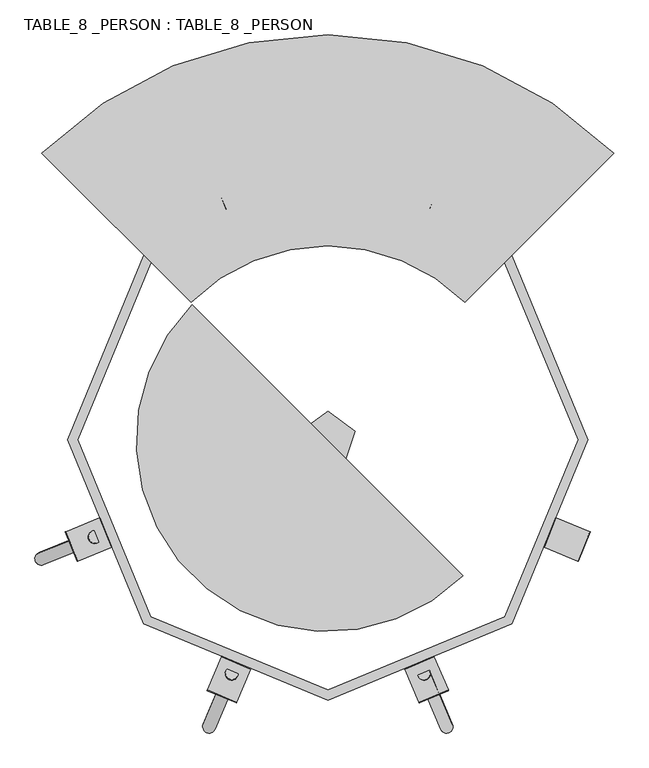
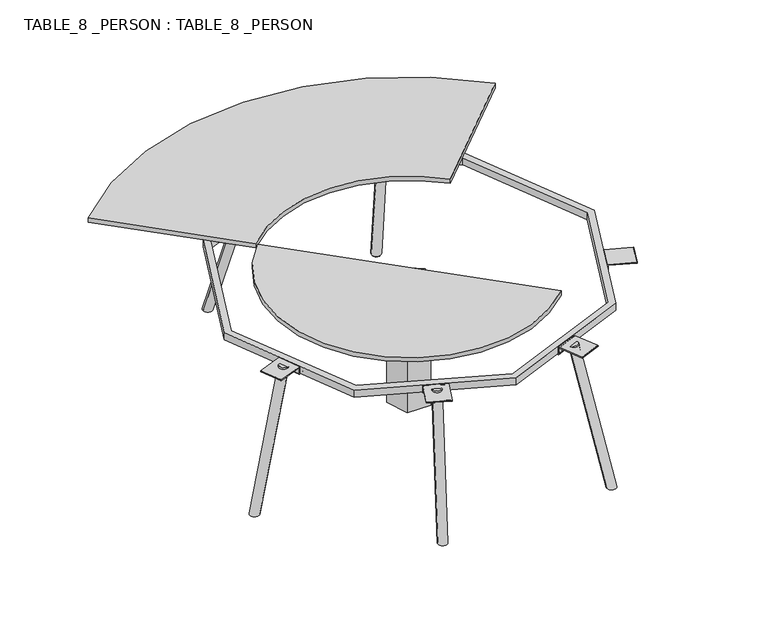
"""IFC4 building model written with IfcOpenShell, lengths in millimetres: furniture geometry, TABLE_8 _PERSON : TABLE_8 _PERSON."""

from ifc_helpers import new_model, si_unit, point, frame, frame_2d, origin, origin_with_axes, origin_2d, place, context, project, spatial, polyline, circle_curve, ellipse_curve, trimmed, segment, composite_curve, outline, extrude, source, transform, mapped, element, save
from ifc_brep_helpers import plane_surface, cylinder_surface, advanced_brep


def table_8_person_table_8_person_554a9362(model_context):
    return source(origin(), model_context, "Body", "SolidModel", [
        extrude(outline(composite_curve([segment(trimmed(circle_curve(frame_2d((0.0, -2.5)), 2.5), [point((-2.5, -2.5))], [point((0.0, 0.0))], False, "CARTESIAN"), True, "CONTINUOUS"), segment(trimmed(circle_curve(frame_2d((0.0, -2.5)), 2.5), [point((0.0, 0.0))], [point((2.5, -2.5))], False, "CARTESIAN"), True, "CONTINUOUS"), segment(polyline([(2.5, -2.5), (2.5, -26.4425328)]), True, "CONTINUOUS"), segment(trimmed(circle_curve(frame_2d((-1.0574671, -26.4425328)), 3.5574671), [point((2.5, -26.4425328))], [point((-1.0574671, -30.0))], False, "CARTESIAN"), True, "CONTINUOUS"), segment(polyline([(-1.0574671, -30.0), (-35.0, -30.0)]), True, "CONTINUOUS"), segment(trimmed(circle_curve(frame_2d((-35.0, -32.5)), 2.5), [point((-35.0, -30.0))], [point((-37.5, -32.5))], True, "CARTESIAN"), True, "CONTINUOUS"), segment(polyline([(-37.5, -32.5), (-37.5, -167.5)]), True, "CONTINUOUS"), segment(trimmed(circle_curve(frame_2d((-40.0, -167.5)), 2.5), [point((-37.5, -167.5))], [point((-40.0, -170.0))], False, "CARTESIAN"), True, "CONTINUOUS"), segment(trimmed(circle_curve(frame_2d((-40.0, -167.5)), 2.5), [point((-40.0, -170.0))], [point((-42.5, -167.5))], False, "CARTESIAN"), True, "CONTINUOUS"), segment(polyline([(-42.5, -167.5), (-42.5, -27.5)]), True, "CONTINUOUS"), segment(trimmed(circle_curve(frame_2d((-40.0, -27.5)), 2.5), [point((-42.5, -27.5))], [point((-40.0, -24.9999999))], False, "CARTESIAN"), True, "CONTINUOUS"), segment(polyline([(-40.0, -24.9999999), (-6.0394106, -24.9999999)]), True, "CONTINUOUS"), segment(trimmed(circle_curve(frame_2d((-6.0394106, -21.4605894)), 3.5394106), [point((-6.0394106, -24.9999999))], [point((-2.5, -21.4605894))], True, "CARTESIAN"), True, "CONTINUOUS"), segment(polyline([(-2.5, -21.4605894), (-2.5, -2.5)]), True, "CONTINUOUS")], self_intersect=False)), frame((811.2342041, -405.2599895, 692.5), z_axis=(0.37460659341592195, 0.9271838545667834, 0.0), x_axis=(0.0, 0.0, -1.0)), (0.0, 0.0, 1.0), 122.728476),
        advanced_brep(
        [(-1126.3712714, -475.6916795, 10.0), (-1132.8256985, -459.7164119, 10.0), (-916.5469057, -355.9639178, 739.0074339), (-885.1124799, -394.5869903, 734.5202141), (-1090.4911757, -477.5653696, 10.0), (-1123.1975872, -439.4562127, 10.0)],
        [
            (0, 1, circle_curve(frame((-1108.7894298, -459.2966417, 3.138398), z_axis=(-0.2710823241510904, -0.10952436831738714, -0.9563047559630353), x_axis=(0.6286885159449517, -0.7724614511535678, -0.08974439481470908)), 25.0)),
            (1, 0),
            (2, 3, circle_curve(frame((-900.8296928, -375.275454, 736.763824), z_axis=(0.2710823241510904, 0.10952436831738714, 0.9563047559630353), x_axis=(0.6286885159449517, -0.7724614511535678, -0.08974439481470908)), 25.0)),
            (3, 2, circle_curve(frame((-900.8296928, -375.275454, 736.763824), z_axis=(0.2710823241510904, 0.10952436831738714, 0.9563047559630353), x_axis=(0.6286885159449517, -0.7724614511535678, -0.08974439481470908)), 25.0)),
            (3, 4),
            (4, 5, ellipse_curve(frame((-1106.8443815, -458.5107911, 10.0), z_axis=(0.0, 0.0, 1.0), x_axis=(-0.9271838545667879, -0.37460659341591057, 0.0)), 26.1422939, 25.0)),
            (5, 2),
            (5, 1, ellipse_curve(frame((-1106.8443815, -458.5107911, 10.0), z_axis=(0.0, 0.0, 1.0), x_axis=(-0.9271838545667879, -0.37460659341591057, 0.0)), 26.1422939, 25.0)),
            (0, 4, ellipse_curve(frame((-1106.8443815, -458.5107911, 10.0), z_axis=(0.0, 0.0, 1.0), x_axis=(-0.9271838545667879, -0.37460659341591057, 0.0)), 26.1422939, 25.0)),
        ],
        [
            plane_surface(frame((-1093.0722169, -478.608178, 0.8947881), z_axis=(-0.2710823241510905, -0.10952436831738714, -0.9563047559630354), x_axis=(-0.7288793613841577, -0.6255459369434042, 0.27825735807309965))),
            plane_surface(frame((-885.1124799, -394.5869903, 734.5202141), z_axis=(0.2710823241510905, 0.10952436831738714, 0.9563047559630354), x_axis=(0.7288793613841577, 0.6255459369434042, -0.27825735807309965))),
            cylinder_surface(frame((-900.8296928, -375.275454, 736.763824), z_axis=(-0.2710823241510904, -0.10952436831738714, -0.9563047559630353), x_axis=(0.6286885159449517, -0.7724614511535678, -0.08974439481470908)), 25.0),
            plane_surface(frame((-1165.4727181, -400.7364862, 10.0), z_axis=(0.0, 0.0, -1.0), x_axis=(0.3746065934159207, -0.927183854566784, 0.0))),
        ],
        [
            (0, [[1, 2]]),
            (1, [[3, 4]]),
            (2, [[-4, 5, 6, 7]]),
            (2, [[-3, -7, 8, -1, 9, -5]]),
            (3, [[-2, -8, -6, -9]]),
        ],
    ),
        extrude(outline(composite_curve([segment(polyline([(-22.5, 0.0), (-3.5394105, 0.0)]), True, "CONTINUOUS"), segment(trimmed(circle_curve(frame_2d((-3.5394105, 3.5394106)), 3.5394106), [point((-3.5394105, 0.0))], [point((0.0, 3.5394106))], True, "CARTESIAN"), True, "CONTINUOUS"), segment(polyline([(0.0, 3.5394106), (0.0, 37.5)]), True, "CONTINUOUS"), segment(trimmed(circle_curve(frame_2d((2.5000001, 37.5)), 2.5), [point((0.0, 37.5))], [point((2.5000001, 40.0))], False, "CARTESIAN"), True, "CONTINUOUS"), segment(polyline([(2.5000001, 40.0), (142.5, 40.0)]), True, "CONTINUOUS"), segment(trimmed(circle_curve(frame_2d((142.5, 37.5)), 2.5), [point((142.5, 40.0))], [point((145.0000001, 37.5))], False, "CARTESIAN"), True, "CONTINUOUS"), segment(trimmed(circle_curve(frame_2d((142.5, 37.5)), 2.5), [point((145.0000001, 37.5))], [point((142.5, 35.0))], False, "CARTESIAN"), True, "CONTINUOUS"), segment(polyline([(142.5, 35.0), (7.5000001, 35.0)]), True, "CONTINUOUS"), segment(trimmed(circle_curve(frame_2d((7.5000001, 32.5)), 2.5), [point((7.5000001, 35.0))], [point((5.0, 32.5))], True, "CARTESIAN"), True, "CONTINUOUS"), segment(polyline([(5.0, 32.5), (5.0, -1.4425329)]), True, "CONTINUOUS"), segment(trimmed(circle_curve(frame_2d((1.4425329, -1.4425329)), 3.5574671), [point((5.0, -1.4425329))], [point((1.4425329, -5.0))], False, "CARTESIAN"), True, "CONTINUOUS"), segment(polyline([(1.4425329, -5.0), (-22.5, -5.0)]), True, "CONTINUOUS"), segment(trimmed(circle_curve(frame_2d((-22.5, -2.5)), 2.5), [point((-22.5, -5.0))], [point((-24.9999999, -2.5))], False, "CARTESIAN"), True, "CONTINUOUS"), segment(trimmed(circle_curve(frame_2d((-22.5, -2.5)), 2.5), [point((-24.9999999, -2.5))], [point((-22.5, 0.0))], False, "CARTESIAN"), True, "CONTINUOUS")], self_intersect=False)), frame((-834.4138004, -414.6251543, 695.0), z_axis=(-0.374606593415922, 0.9271838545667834, 0.0), x_axis=(-0.9271838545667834, -0.374606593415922, 0.0)), (0.0, 0.0, 1.0), 122.728476),
        advanced_brep(
        [(-460.0999518, -1132.8295765, 10.0), (-475.960141, -1126.0973256, 10.0), (-396.3338984, -899.6640778, 739.494078), (-346.7957663, -904.7472187, 735.0068583), (-433.4039938, -1108.7834165, 10.0), (-483.4781625, -1104.9630985, 10.0)],
        [
            (0, 1, circle_curve(frame((-459.2607548, -1108.8042947, 3.138398), z_axis=(-0.11423872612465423, -0.26912957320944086, -0.9563047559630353), x_axis=(0.9907626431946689, -0.1016628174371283, -0.08974439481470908)), 25.0)),
            (1, 0),
            (2, 3, circle_curve(frame((-371.5648324, -902.2056483, 737.2504682), z_axis=(0.11423872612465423, 0.26912957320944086, 0.9563047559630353), x_axis=(0.9907626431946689, -0.1016628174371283, -0.08974439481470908)), 25.0)),
            (3, 2, circle_curve(frame((-371.5648324, -902.2056483, 737.2504682), z_axis=(0.11423872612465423, 0.26912957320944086, 0.9563047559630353), x_axis=(0.9907626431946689, -0.1016628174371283, -0.08974439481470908)), 25.0)),
            (3, 4),
            (4, 5, ellipse_curve(frame((-458.4410782, -1106.8732575, 10.0), z_axis=(0.0, 0.0, 1.0), x_axis=(-0.39073112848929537, -0.9205048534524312, 0.0)), 26.1422939, 25.0)),
            (5, 2),
            (5, 1, ellipse_curve(frame((-458.4410782, -1106.8732575, 10.0), z_axis=(0.0, 0.0, 1.0), x_axis=(-0.39073112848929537, -0.9205048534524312, 0.0)), 26.1422939, 25.0)),
            (0, 4, ellipse_curve(frame((-458.4410782, -1106.8732575, 10.0), z_axis=(0.0, 0.0, 1.0), x_axis=(-0.39073112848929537, -0.9205048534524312, 0.0)), 26.1422939, 25.0)),
        ],
        [
            plane_surface(frame((-434.4916887, -1111.3458651, 0.8947881), z_axis=(-0.11423872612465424, -0.26912957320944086, -0.9563047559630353), x_axis=(-0.07306776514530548, -0.95772331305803, 0.2782573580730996))),
            plane_surface(frame((-346.7957663, -904.7472187, 735.0068583), z_axis=(0.11423872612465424, 0.26912957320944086, 0.9563047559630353), x_axis=(0.07306776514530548, 0.95772331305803, -0.2782573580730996))),
            cylinder_surface(frame((-371.5648324, -902.2056483, 737.2504682), z_axis=(-0.11423872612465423, -0.26912957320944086, -0.9563047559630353), x_axis=(0.9907626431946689, -0.1016628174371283, -0.08974439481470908)), 25.0),
            plane_surface(frame((-540.7501754, -1107.4771491, 10.0), z_axis=(0.0, 0.0, -1.0), x_axis=(0.9205048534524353, -0.3907311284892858, 0.0))),
        ],
        [
            (0, [[1, 2]]),
            (1, [[3, 4]]),
            (2, [[-4, 5, 6, 7]]),
            (2, [[-3, -7, 8, -1, 9, -5]]),
            (3, [[-2, -8, -6, -9]]),
        ],
    ),
        advanced_brep(
        [(475.960141, -1126.0973256, 10.0), (460.0999518, -1132.8295765, 10.0), (396.520229, -900.1030451, 737.9342848), (346.9820968, -905.186186, 733.4470651), (483.4781625, -1104.9630985, 10.0), (433.4039938, -1108.7834165, 10.0)],
        [
            (0, 1, circle_curve(frame((459.2607548, -1108.8042947, 3.138398), z_axis=(0.11423872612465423, -0.26912957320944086, -0.9563047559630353), x_axis=(-0.9907626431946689, -0.1016628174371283, -0.08974439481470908)), 25.0)),
            (1, 0),
            (2, 3, circle_curve(frame((371.7511629, -902.6446155, 735.6906749), z_axis=(-0.11423872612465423, 0.26912957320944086, 0.9563047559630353), x_axis=(-0.9907626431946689, -0.1016628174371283, -0.08974439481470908)), 25.0)),
            (3, 2, circle_curve(frame((371.7511629, -902.6446155, 735.6906749), z_axis=(-0.11423872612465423, 0.26912957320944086, 0.9563047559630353), x_axis=(-0.9907626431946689, -0.1016628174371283, -0.08974439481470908)), 25.0)),
            (2, 4),
            (4, 5, ellipse_curve(frame((458.4410782, -1106.8732575, 10.0), z_axis=(0.0, 0.0, 1.0), x_axis=(0.39073112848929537, -0.9205048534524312, 0.0)), 26.1422939, 25.0)),
            (5, 3),
            (5, 1, ellipse_curve(frame((458.4410782, -1106.8732575, 10.0), z_axis=(0.0, 0.0, 1.0), x_axis=(0.39073112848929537, -0.9205048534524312, 0.0)), 26.1422939, 25.0)),
            (0, 4, ellipse_curve(frame((458.4410782, -1106.8732575, 10.0), z_axis=(0.0, 0.0, 1.0), x_axis=(0.39073112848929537, -0.9205048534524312, 0.0)), 26.1422939, 25.0)),
        ],
        [
            plane_surface(frame((434.4916887, -1111.3458651, 0.8947881), z_axis=(0.11423872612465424, -0.26912957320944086, -0.9563047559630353), x_axis=(-0.07306776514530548, 0.95772331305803, -0.2782573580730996))),
            plane_surface(frame((346.9820968, -905.186186, 733.4470651), z_axis=(-0.11423872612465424, 0.26912957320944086, 0.9563047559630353), x_axis=(0.07306776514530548, -0.95772331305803, 0.2782573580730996))),
            cylinder_surface(frame((371.7511629, -902.6446155, 735.6906749), z_axis=(0.11423872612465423, -0.26912957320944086, -0.9563047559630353), x_axis=(-0.9907626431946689, -0.1016628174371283, -0.08974439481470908)), 25.0),
            plane_surface(frame((513.3989964, -1043.0418093, 10.0), z_axis=(0.0, 0.0, -1.0), x_axis=(-0.9205048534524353, -0.3907311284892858, 0.0))),
        ],
        [
            (0, [[1, 2]]),
            (1, [[3, 4]]),
            (2, [[-3, 5, 6, 7]]),
            (2, [[-4, -7, 8, -1, 9, -5]]),
            (3, [[-2, -8, -6, -9]]),
        ],
    ),
        extrude(outline(composite_curve([segment(polyline([(-22.5, 0.0), (-3.5394106, 0.0)]), True, "CONTINUOUS"), segment(trimmed(circle_curve(frame_2d((-3.5394106, 3.5394106)), 3.5394106), [point((-3.5394106, 0.0))], [point((0.0, 3.5394106))], True, "CARTESIAN"), True, "CONTINUOUS"), segment(polyline([(0.0, 3.5394106), (0.0, 37.5)]), True, "CONTINUOUS"), segment(trimmed(circle_curve(frame_2d((2.5, 37.5)), 2.5), [point((0.0, 37.5))], [point((2.5, 40.0))], False, "CARTESIAN"), True, "CONTINUOUS"), segment(polyline([(2.5, 40.0), (142.5, 40.0)]), True, "CONTINUOUS"), segment(trimmed(circle_curve(frame_2d((142.5, 37.5)), 2.5), [point((142.5, 40.0))], [point((145.0, 37.5))], False, "CARTESIAN"), True, "CONTINUOUS"), segment(trimmed(circle_curve(frame_2d((142.5, 37.5)), 2.5), [point((145.0, 37.5))], [point((142.5, 35.0))], False, "CARTESIAN"), True, "CONTINUOUS"), segment(polyline([(142.5, 35.0), (7.5, 35.0)]), True, "CONTINUOUS"), segment(trimmed(circle_curve(frame_2d((7.5, 32.5)), 2.5), [point((7.5, 35.0))], [point((5.0000001, 32.5))], True, "CARTESIAN"), True, "CONTINUOUS"), segment(polyline([(5.0000001, 32.5), (5.0000001, -1.4425329)]), True, "CONTINUOUS"), segment(trimmed(circle_curve(frame_2d((1.4425329, -1.4425329)), 3.5574671), [point((5.0000001, -1.4425329))], [point((1.4425329, -5.0))], False, "CARTESIAN"), True, "CONTINUOUS"), segment(polyline([(1.4425329, -5.0), (-22.5, -5.0)]), True, "CONTINUOUS"), segment(trimmed(circle_curve(frame_2d((-22.5, -2.5)), 2.5), [point((-22.5, -5.0))], [point((-25.0, -2.5))], False, "CARTESIAN"), True, "CONTINUOUS"), segment(trimmed(circle_curve(frame_2d((-22.5, -2.5)), 2.5), [point((-25.0, -2.5))], [point((-22.5, 0.0))], False, "CARTESIAN"), True, "CONTINUOUS")], self_intersect=False)), frame((-296.8353983, -883.2039149, 695.0), z_axis=(-0.920504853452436, 0.3907311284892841, 0.0), x_axis=(-0.3907311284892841, -0.920504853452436, 0.0)), (0.0, 0.0, 1.0), 122.728476),
        extrude(outline(composite_curve([segment(trimmed(circle_curve(frame_2d((0.0, -2.5)), 2.5), [point((-2.5, -2.5))], [point((0.0, 0.0))], False, "CARTESIAN"), True, "CONTINUOUS"), segment(trimmed(circle_curve(frame_2d((0.0, -2.5)), 2.5), [point((0.0, 0.0))], [point((2.5, -2.5))], False, "CARTESIAN"), True, "CONTINUOUS"), segment(polyline([(2.5, -2.5), (2.5, -26.4425328)]), True, "CONTINUOUS"), segment(trimmed(circle_curve(frame_2d((-1.0574671, -26.4425328)), 3.5574671), [point((2.5, -26.4425328))], [point((-1.0574671, -30.0))], False, "CARTESIAN"), True, "CONTINUOUS"), segment(polyline([(-1.0574671, -30.0), (-35.0, -30.0)]), True, "CONTINUOUS"), segment(trimmed(circle_curve(frame_2d((-35.0, -32.5)), 2.5), [point((-35.0, -30.0))], [point((-37.5, -32.5))], True, "CARTESIAN"), True, "CONTINUOUS"), segment(polyline([(-37.5, -32.5), (-37.5, -167.4999999)]), True, "CONTINUOUS"), segment(trimmed(circle_curve(frame_2d((-40.0, -167.4999999)), 2.5), [point((-37.5, -167.4999999))], [point((-40.0, -169.9999999))], False, "CARTESIAN"), True, "CONTINUOUS"), segment(trimmed(circle_curve(frame_2d((-40.0, -167.4999999)), 2.5), [point((-40.0, -169.9999999))], [point((-42.5, -167.4999999))], False, "CARTESIAN"), True, "CONTINUOUS"), segment(polyline([(-42.5, -167.4999999), (-42.5, -27.4999999)]), True, "CONTINUOUS"), segment(trimmed(circle_curve(frame_2d((-40.0, -27.4999999)), 2.5), [point((-42.5, -27.4999999))], [point((-40.0, -25.0))], False, "CARTESIAN"), True, "CONTINUOUS"), segment(polyline([(-40.0, -25.0), (-6.0394106, -25.0)]), True, "CONTINUOUS"), segment(trimmed(circle_curve(frame_2d((-6.0394106, -21.4605894)), 3.5394106), [point((-6.0394106, -25.0))], [point((-2.5, -21.4605894))], True, "CARTESIAN"), True, "CONTINUOUS"), segment(polyline([(-2.5, -21.4605894), (-2.5, -2.5)]), True, "CONTINUOUS")], self_intersect=False)), frame((287.0671201, -860.1912936, 692.5), z_axis=(0.920504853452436, 0.3907311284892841, 0.0), x_axis=(0.0, 0.0, -1.0)), (0.0, 0.0, 1.0), 122.728476),
        advanced_brep(
        [(-475.960141, 1126.0973256, 10.0), (-460.0999518, 1132.8295765, 10.0), (-396.4513023, 899.9406641, 738.5112773), (-346.9131702, 905.0238049, 734.0240575), (-483.4781625, 1104.9630985, 10.0), (-433.4039938, 1108.7834165, 10.0)],
        [
            (0, 1, circle_curve(frame((-459.2607548, 1108.8042947, 3.138398), z_axis=(-0.11423872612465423, 0.26912957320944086, -0.9563047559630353), x_axis=(0.9907626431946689, 0.1016628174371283, -0.08974439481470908)), 25.0)),
            (1, 0),
            (2, 3, circle_curve(frame((-371.6822363, 902.4822345, 736.2676674), z_axis=(0.11423872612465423, -0.26912957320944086, 0.9563047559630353), x_axis=(0.9907626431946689, 0.1016628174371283, -0.08974439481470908)), 25.0)),
            (3, 2, circle_curve(frame((-371.6822363, 902.4822345, 736.2676674), z_axis=(0.11423872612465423, -0.26912957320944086, 0.9563047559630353), x_axis=(0.9907626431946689, 0.1016628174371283, -0.08974439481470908)), 25.0)),
            (2, 4),
            (4, 5, ellipse_curve(frame((-458.4410782, 1106.8732575, 10.0), z_axis=(0.0, 0.0, 1.0), x_axis=(-0.39073112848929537, 0.9205048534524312, 0.0)), 26.1422939, 25.0)),
            (5, 3),
            (5, 1, ellipse_curve(frame((-458.4410782, 1106.8732575, 10.0), z_axis=(0.0, 0.0, 1.0), x_axis=(-0.39073112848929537, 0.9205048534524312, 0.0)), 26.1422939, 25.0)),
            (0, 4, ellipse_curve(frame((-458.4410782, 1106.8732575, 10.0), z_axis=(0.0, 0.0, 1.0), x_axis=(-0.39073112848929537, 0.9205048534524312, 0.0)), 26.1422939, 25.0)),
        ],
        [
            plane_surface(frame((-434.4916887, 1111.3458651, 0.8947881), z_axis=(-0.11423872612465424, 0.26912957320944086, -0.9563047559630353), x_axis=(0.07306776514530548, -0.95772331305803, -0.2782573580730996))),
            plane_surface(frame((-346.9131702, 905.0238049, 734.0240575), z_axis=(0.11423872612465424, -0.26912957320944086, 0.9563047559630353), x_axis=(-0.07306776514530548, 0.95772331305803, 0.2782573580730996))),
            cylinder_surface(frame((-371.6822363, 902.4822345, 736.2676674), z_axis=(-0.11423872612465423, 0.26912957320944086, -0.9563047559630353), x_axis=(0.9907626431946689, 0.1016628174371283, -0.08974439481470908)), 25.0),
            plane_surface(frame((-513.3989964, 1043.0418093, 10.0), z_axis=(0.0, 0.0, -1.0), x_axis=(0.9205048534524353, 0.3907311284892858, 0.0))),
        ],
        [
            (0, [[1, 2]]),
            (1, [[3, 4]]),
            (2, [[-3, 5, 6, 7]]),
            (2, [[-4, -7, 8, -1, 9, -5]]),
            (3, [[-2, -8, -6, -9]]),
        ],
    ),
        extrude(outline(polyline([(478.8570054, 1104.3515591), (466.5437759, 1088.591344), (446.7384145, 1091.374806), (439.2462826, 1109.9184831), (451.5595121, 1125.6786982), (471.3648735, 1122.8952362), (478.8570054, 1104.3515591)])), origin_with_axes(), (0.0, 0.0, 1.0), 10.0),
        extrude(outline(composite_curve([segment(polyline([(2.5, -2.5000001), (2.5, -21.4605894)]), True, "CONTINUOUS"), segment(trimmed(circle_curve(frame_2d((6.0394106, -21.4605894)), 3.5394106), [point((2.5, -21.4605894))], [point((6.0394106, -25.0000001))], True, "CARTESIAN"), True, "CONTINUOUS"), segment(polyline([(6.0394106, -25.0000001), (40.0, -25.0000001)]), True, "CONTINUOUS"), segment(trimmed(circle_curve(frame_2d((40.0, -27.5000001)), 2.5), [point((40.0, -25.0000001))], [point((42.5, -27.5000001))], False, "CARTESIAN"), True, "CONTINUOUS"), segment(polyline([(42.5, -27.5000001), (42.5, -167.5000001)]), True, "CONTINUOUS"), segment(trimmed(circle_curve(frame_2d((40.0, -167.5000001)), 2.5), [point((42.5, -167.5000001))], [point((40.0, -170.0))], False, "CARTESIAN"), True, "CONTINUOUS"), segment(trimmed(circle_curve(frame_2d((40.0, -167.5000001)), 2.5), [point((40.0, -170.0))], [point((37.5, -167.5000001))], False, "CARTESIAN"), True, "CONTINUOUS"), segment(polyline([(37.5, -167.5000001), (37.5, -32.5000001)]), True, "CONTINUOUS"), segment(trimmed(circle_curve(frame_2d((35.0, -32.5000001)), 2.5), [point((37.5, -32.5000001))], [point((35.0, -30.0))], True, "CARTESIAN"), True, "CONTINUOUS"), segment(polyline([(35.0, -30.0), (1.0574671, -30.0)]), True, "CONTINUOUS"), segment(trimmed(circle_curve(frame_2d((1.0574671, -26.4425329)), 3.5574671), [point((1.0574671, -30.0))], [point((-2.5, -26.4425329))], False, "CARTESIAN"), True, "CONTINUOUS"), segment(polyline([(-2.5, -26.4425329), (-2.5, -2.5000001)]), True, "CONTINUOUS"), segment(trimmed(circle_curve(frame_2d((0.0, -2.5000001)), 2.5), [point((-2.5, -2.5000001))], [point((0.0, 0.0))], False, "CARTESIAN"), True, "CONTINUOUS"), segment(trimmed(circle_curve(frame_2d((0.0, -2.5000001)), 2.5), [point((0.0, 0.0))], [point((2.5, -2.5000001))], False, "CARTESIAN"), True, "CONTINUOUS")], self_intersect=False)), frame((-400.0392779, 812.2374576, 692.5), z_axis=(0.920504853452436, 0.3907311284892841, 0.0), x_axis=(0.0, 0.0, 1.0)), (0.0, 0.0, 1.0), 122.728476),
        extrude(outline(polyline([(104.6162168, 33.9918694), (64.6563778, -88.9918694), (-64.6563778, -88.9918694), (-104.6162168, 33.9918694), (0.0, 110.0), (104.6162168, 33.9918694)])), origin_with_axes(), (0.0, 0.0, 1.0), 695.0),
        extrude(outline(polyline([(711.3494219, 711.3494219), (1006.0, 0.0), (711.3494219, -711.3494219), (0.0, -1006.0), (-711.3494219, -711.3494219), (-1006.0, 0.0), (-711.3494219, 711.3494219), (0.0, 1006.0), (711.3494219, 711.3494219)]), holes=[polyline([(-683.0308479, 683.0308479), (-965.9514886, 0.0), (-683.0308479, -683.0308479), (0.0, -965.9514886), (683.0308479, -683.0308479), (965.9514886, 0.0), (683.0308479, 683.0308479), (0.0, 965.9514886), (-683.0308479, 683.0308479)])]), frame((0.0, 0.0, 695.0), z_axis=(0.0, 0.0, 1.0), x_axis=(1.0, 0.0, 0.0)), (0.0, 0.0, 1.0), 40.0),
        extrude(outline(composite_curve([segment(polyline([(1105.5609441, 1107.6822644), (529.2683651, 531.3896854)]), True, "CONTINUOUS"), segment(trimmed(circle_curve(origin_2d(), 750.0), [point((529.2683651, 531.3896854))], [point((-529.2683651, 531.3896854))], True, "CARTESIAN"), True, "CONTINUOUS"), segment(polyline([(-529.2683651, 531.3896854), (-1105.5609441, 1107.6822644)]), True, "CONTINUOUS"), segment(trimmed(circle_curve(origin_2d(), 1565.0), [point((-1105.5609441, 1107.6822644))], [point((1105.5609441, 1107.6822644))], False, "CARTESIAN"), True, "CONTINUOUS")], self_intersect=False)), frame((0.0, 0.0, 735.0), z_axis=(0.0, 0.0, 1.0), x_axis=(1.0, 0.0, 0.0)), (0.0, 0.0, 1.0), 25.0),
        advanced_brep(
        [(460.0999518, 1132.8295765, 10.0), (475.960141, 1126.0973256, 10.0), (433.4039938, 1108.7834165, 10.0), (483.4781625, 1104.9630985, 10.0), (397.4680467, 902.3359637, 730.0), (347.393878, 906.1562817, 730.0)],
        [
            (0, 1, circle_curve(frame((459.2607548, 1108.8042947, 3.138398), z_axis=(0.11423872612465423, 0.26912957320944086, -0.9563047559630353), x_axis=(-0.9907626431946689, 0.1016628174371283, -0.08974439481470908)), 25.0)),
            (1, 0),
            (2, 3, ellipse_curve(frame((458.4410782, 1106.8732575, 10.0), z_axis=(0.0, 0.0, 1.0), x_axis=(0.39073112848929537, 0.9205048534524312, 0.0)), 26.1422939, 25.0)),
            (3, 4),
            (4, 5, ellipse_curve(frame((372.4309624, 904.2461227, 730.0), z_axis=(0.0, 0.0, -1.0), x_axis=(0.39073112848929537, 0.9205048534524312, 0.0)), 26.1422939, 25.0)),
            (5, 2),
            (0, 2, ellipse_curve(frame((458.4410782, 1106.8732575, 10.0), z_axis=(0.0, 0.0, 1.0), x_axis=(0.39073112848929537, 0.9205048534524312, 0.0)), 26.1422939, 25.0)),
            (5, 4, ellipse_curve(frame((372.4309624, 904.2461227, 730.0), z_axis=(0.0, 0.0, -1.0), x_axis=(0.39073112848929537, 0.9205048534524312, 0.0)), 26.1422939, 25.0)),
            (3, 1, ellipse_curve(frame((458.4410782, 1106.8732575, 10.0), z_axis=(0.0, 0.0, 1.0), x_axis=(0.39073112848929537, 0.9205048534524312, 0.0)), 26.1422939, 25.0)),
        ],
        [
            plane_surface(frame((434.4916887, 1111.3458651, 0.8947881), z_axis=(0.11423872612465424, 0.26912957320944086, -0.9563047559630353), x_axis=(0.07306776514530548, 0.95772331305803, 0.2782573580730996))),
            cylinder_surface(frame((371.5578053, 902.1890935, 737.3092926), z_axis=(0.11423872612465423, 0.26912957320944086, -0.9563047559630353), x_axis=(-0.9907626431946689, 0.1016628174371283, -0.08974439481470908)), 25.0),
            plane_surface(frame((540.7501754, 1107.4771491, 10.0), z_axis=(0.0, 0.0, -1.0), x_axis=(-0.9205048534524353, 0.3907311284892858, 0.0))),
            plane_surface(frame((399.1731593, 856.895175, 730.0), z_axis=(0.0, 0.0, 1.0), x_axis=(-0.9205048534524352, 0.39073112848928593, 0.0))),
        ],
        [
            (0, [[1, 2]]),
            (1, [[3, 4, 5, 6]]),
            (1, [[-1, 7, -6, 8, -4, 9]]),
            (2, [[-2, -9, -3, -7]]),
            (3, [[-5, -8]]),
        ],
    ),
        extrude(outline(composite_curve([segment(trimmed(circle_curve(frame_2d((22.5, -2.5)), 2.5), [point((22.5, 0.0))], [point((25.0000001, -2.5))], False, "CARTESIAN"), True, "CONTINUOUS"), segment(trimmed(circle_curve(frame_2d((22.5, -2.5)), 2.5), [point((25.0000001, -2.5))], [point((22.5, -5.0))], False, "CARTESIAN"), True, "CONTINUOUS"), segment(polyline([(22.5, -5.0), (-1.4425329, -5.0)]), True, "CONTINUOUS"), segment(trimmed(circle_curve(frame_2d((-1.4425329, -1.4425329)), 3.5574671), [point((-1.4425329, -5.0))], [point((-5.0, -1.4425329))], False, "CARTESIAN"), True, "CONTINUOUS"), segment(polyline([(-5.0, -1.4425329), (-5.0, 32.5)]), True, "CONTINUOUS"), segment(trimmed(circle_curve(frame_2d((-7.5, 32.5)), 2.5), [point((-5.0, 32.5))], [point((-7.5, 35.0))], True, "CARTESIAN"), True, "CONTINUOUS"), segment(polyline([(-7.5, 35.0), (-142.5, 35.0)]), True, "CONTINUOUS"), segment(trimmed(circle_curve(frame_2d((-142.5, 37.5)), 2.5), [point((-142.5, 35.0))], [point((-145.0, 37.5))], False, "CARTESIAN"), True, "CONTINUOUS"), segment(trimmed(circle_curve(frame_2d((-142.5, 37.5)), 2.5), [point((-145.0, 37.5))], [point((-142.5, 40.0))], False, "CARTESIAN"), True, "CONTINUOUS"), segment(polyline([(-142.5, 40.0), (-2.5, 40.0)]), True, "CONTINUOUS"), segment(trimmed(circle_curve(frame_2d((-2.5, 37.5)), 2.5), [point((-2.5, 40.0))], [point((0.0, 37.5))], False, "CARTESIAN"), True, "CONTINUOUS"), segment(polyline([(0.0, 37.5), (0.0, 3.5394106)]), True, "CONTINUOUS"), segment(trimmed(circle_curve(frame_2d((3.5394106, 3.5394106)), 3.5394106), [point((0.0, 3.5394106))], [point((3.5394106, 0.0))], True, "CARTESIAN"), True, "CONTINUOUS"), segment(polyline([(3.5394106, 0.0), (22.5, 0.0)]), True, "CONTINUOUS")], self_intersect=False)), frame((409.8075561, 835.250079, 695.0), z_axis=(-0.920504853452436, 0.3907311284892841, 0.0), x_axis=(-0.3907311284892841, -0.920504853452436, 0.0)), (0.0, 0.0, 1.0), 122.728476),
        extrude(outline(composite_curve([segment(trimmed(circle_curve(frame_2d((-1.0606602, -1.0606602)), 739.9984797), [point((522.1972829, -524.3186033))], [point((-524.3186033, 522.1972829))], False, "CARTESIAN"), True, "CONTINUOUS"), segment(polyline([(-524.3186033, 522.1972829), (522.1972829, -524.3186033)]), True, "CONTINUOUS")], self_intersect=False)), frame((0.0, 0.0, 735.0), z_axis=(0.0, 0.0, 1.0), x_axis=(1.0, 0.0, 0.0)), (0.0, 0.0, 1.0), 25.0),
    ])


if __name__ == "__main__":
    model = new_model("IFC4")
    model_context = context("Model", 3, world=origin())
    ifc_project = project(units=[si_unit("LENGTHUNIT", "METRE", prefix="MILLI")], contexts=[model_context])
    site = spatial("IfcSite", under=ifc_project)
    building = spatial("IfcBuilding", under=site)
    placement = place(None, origin())
    table_8_person_table_8_person_shape = table_8_person_table_8_person_554a9362(model_context)
    element("IfcFurniture", 1, ObjectType="TABLE_8 _PERSON : TABLE_8 _PERSON", at=placement, inside=building, context=model_context, shape_type="MappedRepresentation", body=[
        mapped(table_8_person_table_8_person_shape, transform((0.0, 0.0, 0.0), x_axis=(1.0, 0.0, 0.0), y_axis=(0.0, 1.0, 0.0), z_axis=(0.0, 0.0, 1.0))),
    ])
    save(model, "model.ifc")
